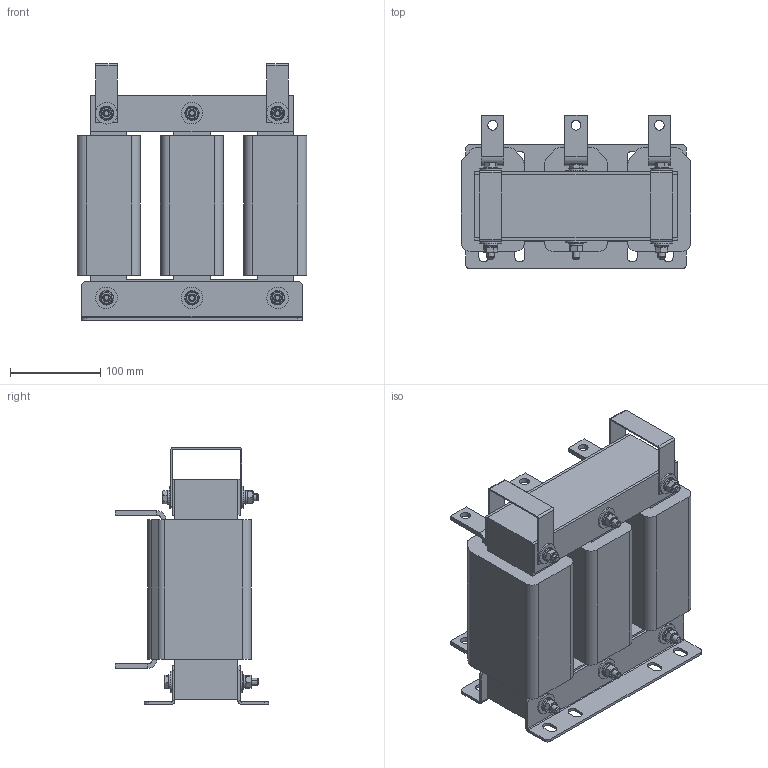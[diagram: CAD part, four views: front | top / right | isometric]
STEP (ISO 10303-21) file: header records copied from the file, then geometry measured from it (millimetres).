
FILE_DESCRIPTION (( 'STEP AP203' ), '1' );
FILE_NAME ('填蝾痦 漯铖皴朦 _ IMF-132_253-4.STEP', '2026-02-16T13:56:20', ( '' ), ( '' ), 'SwSTEP 2.0', 'SolidWorks 2021', '' );
FILE_SCHEMA (( 'CONFIG_CONTROL_DESIGN' ));
Length unit declared in the file: millimetre
Products named in the file (14): 咈櫡_132; Øàéáà ïëîñêàÿ DIN 9021_Œ8; Êëåììà âåðõíÿÿ; Øàéáà ïëîñêàÿ DIN 125 (A)_Œ8; 栫謱毿膻獥132; Ñêîáà òàêåëàæíàÿ_132; Êëåììà íèæíÿÿ; Áîëò DIN 933_Œ8å100; Êàòóøêà ñ êëåììàìè_132; Øàéáà ïðóæèííàÿ DIN 127 (A)_Œ8; Ãàéêà DIN 934_Œ8; 忺覷齆趌132; Ïëàñòèíà ïðèæèìíàÿ_132; 填蝾痦 漯铖皴朦 _ IMF-132_253-4
Assembly tree (55 placements, depth 3):
  填蝾痦 漯铖皴朦 _ IMF-132_253-4
    栫謱毿膻獥132
    咈櫡_132  x2
    Êàòóøêà ñ êëåììàìè_132  x3
      忺覷齆趌132
      Êëåììà íèæíÿÿ
      Êëåììà âåðõíÿÿ
    Ïëàñòèíà ïðèæèìíàÿ_132  x2
    Ñêîáà òàêåëàæíàÿ_132  x2
    Øàéáà ïëîñêàÿ DIN 9021_Œ8  x12
    Øàéáà ïëîñêàÿ DIN 125 (A)_Œ8  x12
    Øàéáà ïðóæèííàÿ DIN 127 (A)_Œ8  x6
    Ãàéêà DIN 934_Œ8  x6
    Áîëò DIN 933_Œ8å100  x6
Bounding box: 255 x 170 x 285 mm (x, y, z)
Volume: 5209162.7 mm3; surface area: 702820 mm2
Topology: 58 solids, 58 shells, 896 faces, 2016 edges, 1254 vertices
Faces by surface type: plane 420, cylinder 272, cone 192, torus 12
Entity records: 9904 total; most frequent: CARTESIAN_POINT 1455, DIRECTION 1303, ORIENTED_EDGE 1124, EDGE_CURVE 562, AXIS2_PLACEMENT_3D 481, VERTEX_POINT 353, VECTOR 341, LINE 341
